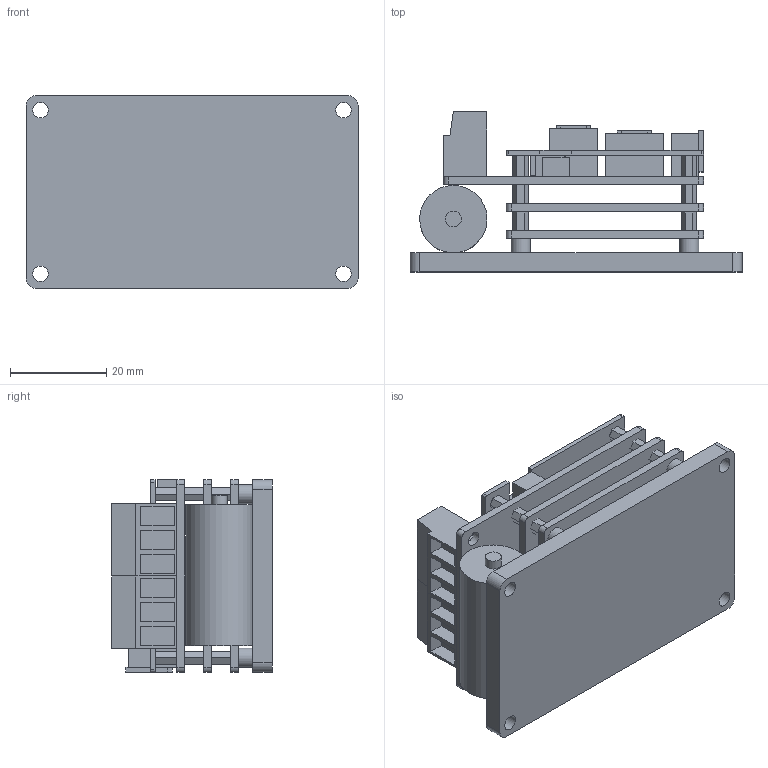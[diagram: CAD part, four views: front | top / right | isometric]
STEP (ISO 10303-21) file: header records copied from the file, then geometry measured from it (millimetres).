
FILE_DESCRIPTION (( 'STEP AP203' ), '1' );
FILE_NAME ('IxLT1530蚾饜极 .STEP', '2025-08-21T09:26:51', ( '' ), ( '' ), 'SwSTEP 2.0', 'SolidWorks 2018', '' );
FILE_SCHEMA (( 'CONFIG_CONTROL_DESIGN' ));
Length unit declared in the file: millimetre
Products named in the file (15): 萇埭; 4PINS; 肣翐; PCB大; 电容; 翐赽; 苤輸; 5PINS; 18PINS; 3PINS; 裔啣; PCBС; IxLT1530蚾饜极 ; 16PINS; 菁啣
Assembly tree (31 placements, depth 2):
  IxLT1530蚾饜极 
    菁啣
    PCBС  x2
    PCB大
    电容
    萇埭  x2
    5PINS  x2
    3PINS
    4PINS
    16PINS
    18PINS
    苤輸
    裔啣
    翐赽  x4
    肣翐  x12
Bounding box: 69 x 33.3 x 40 mm (x, y, z)
Volume: 29716 mm3; surface area: 29940.1 mm2
Topology: 31 solids, 31 shells, 613 faces, 1497 edges, 1008 vertices
Faces by surface type: plane 500, cylinder 105, cone 8
Full cylindrical faces by diameter (mm): 0.2 x34, 0.5 x17, 2.4 x4, 2.5 x12, 3 x2, 3.2 x4, 3.3 x1, 3.5 x6, 4 x4, 14 x1
Entity records: 14255 total; most frequent: CARTESIAN_POINT 2109, DIRECTION 2062, ORIENTED_EDGE 1920, EDGE_CURVE 960, LINE 784, VECTOR 784, VERTEX_POINT 686, AXIS2_PLACEMENT_3D 639
